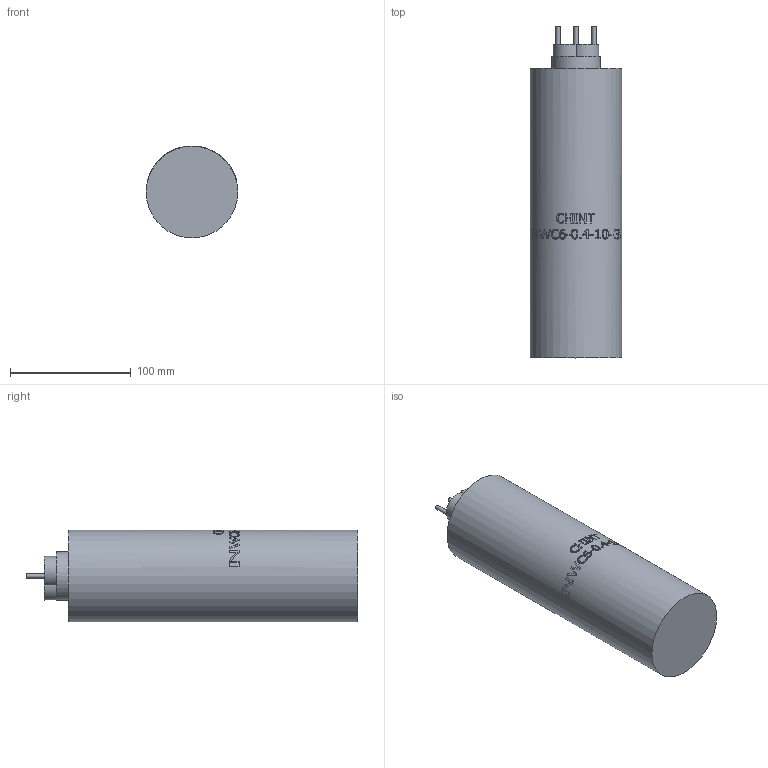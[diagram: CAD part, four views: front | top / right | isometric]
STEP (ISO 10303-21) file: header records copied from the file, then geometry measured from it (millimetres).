
FILE_DESCRIPTION(/* description */ (''),/* implementation_level */ '2;1');
FILE_NAME(/* name */ 'D:\CHINT3\\X2\041A043E043D04340435043D044104300442043E0440044B\X0\\NWC6-0.4-10-3.stp',/* time_stamp */ '2017-12-13T20:53:38+03:00',/* author */ ('RSagdiev'),/* organization */ (''),/* preprocessor_version */ 'ST-DEVELOPER v16.5',/* originating_system */ 'Autodesk Inventor 2017',/* authorisation */ '');
FILE_SCHEMA (('AUTOMOTIVE_DESIGN { 1 0 10303 214 3 1 1 }'));
Length unit declared in the file: millimetre
Products named in the file (1): NWC6-0.4-10-3
Bounding box: 76 x 275 x 76.1 mm (x, y, z)
Volume: 1109022.9 mm3; surface area: 72325.6 mm2
Topology: 5 solids, 5 shells, 263 faces, 687 edges, 457 vertices
Faces by surface type: plane 137, bspline 95, cylinder 31
Full cylindrical faces by diameter (mm): 3.5 x3, 40 x1, 74 x1, 76 x1
Entity records: 9709 total; most frequent: CARTESIAN_POINT 3685, ORIENTED_EDGE 1360, DIRECTION 993, EDGE_CURVE 680, VERTEX_POINT 456, AXIS2_PLACEMENT_3D 334, LINE 325, VECTOR 325
